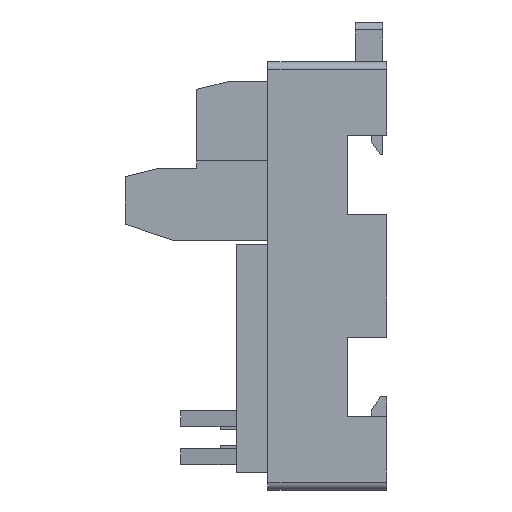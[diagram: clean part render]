
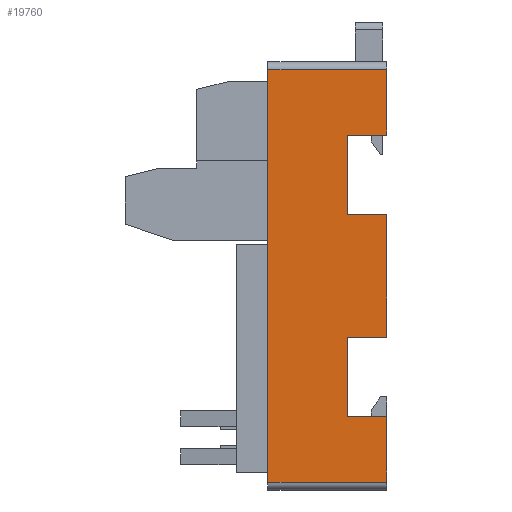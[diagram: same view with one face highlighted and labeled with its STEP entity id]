
A CAD part, left-side view. The second image highlights one B-rep face of the part: STEP entity #19760.
In plain terms, the highlighted planar face has unit normal (-1, 0, 0).
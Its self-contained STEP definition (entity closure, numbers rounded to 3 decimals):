
#358 = CARTESIAN_POINT ( 'NONE',  ( 0., 15., -53. ) ) ;
#375 = CARTESIAN_POINT ( 'NONE',  ( 0., 0., 0. ) ) ;
#511 = DIRECTION ( 'NONE',  ( 0., 0., 1. ) ) ;
#542 = CARTESIAN_POINT ( 'NONE',  ( 0., 5., -9.25 ) ) ;
#618 = DIRECTION ( 'NONE',  ( 0., 0., 1. ) ) ;
#653 = LINE ( 'NONE', #24501, #11923 ) ;
#1224 = CARTESIAN_POINT ( 'NONE',  ( 0., 15., -1. ) ) ;
#1269 = ORIENTED_EDGE ( 'NONE', *, *, #21208, .T. ) ;
#1467 = CARTESIAN_POINT ( 'NONE',  ( 0., 0., -1. ) ) ;
#1964 = DIRECTION ( 'NONE',  ( 0., -1., 0. ) ) ;
#2171 = CARTESIAN_POINT ( 'NONE',  ( 0., 5., -34.75 ) ) ;
#3084 = VECTOR ( 'NONE', #25063, 1000. ) ;
#3305 = CARTESIAN_POINT ( 'NONE',  ( 0., 15., 0. ) ) ;
#3437 = VERTEX_POINT ( 'NONE', #1467 ) ;
#3558 = EDGE_CURVE ( 'NONE', #6025, #10180, #10409, .T. ) ;
#3856 = DIRECTION ( 'NONE',  ( 0., 0., 1. ) ) ;
#3953 = EDGE_CURVE ( 'NONE', #10452, #13836, #24318, .T. ) ;
#4053 = AXIS2_PLACEMENT_3D ( 'NONE', #20520, #24181, #10099 ) ;
#4247 = CARTESIAN_POINT ( 'NONE',  ( 0., 15., -9.25 ) ) ;
#4928 = CARTESIAN_POINT ( 'NONE',  ( 0., 0., -53. ) ) ;
#5424 = LINE ( 'NONE', #21328, #14838 ) ;
#5426 = ORIENTED_EDGE ( 'NONE', *, *, #22447, .T. ) ;
#5721 = DIRECTION ( 'NONE',  ( 0., 0., 1. ) ) ;
#5921 = CARTESIAN_POINT ( 'NONE',  ( 0., 0., -19.25 ) ) ;
#6025 = VERTEX_POINT ( 'NONE', #15164 ) ;
#6205 = DIRECTION ( 'NONE',  ( 0., -1., 0. ) ) ;
#6940 = ORIENTED_EDGE ( 'NONE', *, *, #18050, .T. ) ;
#7342 = ORIENTED_EDGE ( 'NONE', *, *, #3558, .T. ) ;
#8150 = FACE_OUTER_BOUND ( 'NONE', #16735, .T. ) ;
#8214 = DIRECTION ( 'NONE',  ( 0., 0., 1. ) ) ;
#8773 = VERTEX_POINT ( 'NONE', #1224 ) ;
#9212 = VECTOR ( 'NONE', #1964, 1000. ) ;
#9326 = DIRECTION ( 'NONE',  ( 0., 1., 0. ) ) ;
#9736 = VERTEX_POINT ( 'NONE', #14304 ) ;
#9799 = ORIENTED_EDGE ( 'NONE', *, *, #24547, .F. ) ;
#9882 = VERTEX_POINT ( 'NONE', #4928 ) ;
#10065 = EDGE_CURVE ( 'NONE', #20310, #10452, #5424, .T. ) ;
#10099 = DIRECTION ( 'NONE',  ( 0., 0., -1. ) ) ;
#10109 = VERTEX_POINT ( 'NONE', #358 ) ;
#10140 = CARTESIAN_POINT ( 'NONE',  ( 0., 5., 0. ) ) ;
#10150 = LINE ( 'NONE', #21891, #9212 ) ;
#10180 = VERTEX_POINT ( 'NONE', #2171 ) ;
#10241 = EDGE_CURVE ( 'NONE', #3437, #8773, #25431, .T. ) ;
#10409 = LINE ( 'NONE', #10140, #11910 ) ;
#10452 = VERTEX_POINT ( 'NONE', #542 ) ;
#10583 = CARTESIAN_POINT ( 'NONE',  ( 0., 5., -19.25 ) ) ;
#11218 = LINE ( 'NONE', #15507, #18341 ) ;
#11278 = CARTESIAN_POINT ( 'NONE',  ( 0., 0., -44.75 ) ) ;
#11447 = CARTESIAN_POINT ( 'NONE',  ( 0., 0., 0. ) ) ;
#11786 = CARTESIAN_POINT ( 'NONE',  ( 0., 15., -53. ) ) ;
#11874 = VECTOR ( 'NONE', #618, 1000. ) ;
#11910 = VECTOR ( 'NONE', #511, 1000. ) ;
#11923 = VECTOR ( 'NONE', #8214, 1000. ) ;
#13061 = CARTESIAN_POINT ( 'NONE',  ( 0., 15., -1. ) ) ;
#13094 = VECTOR ( 'NONE', #6205, 1000. ) ;
#13487 = LINE ( 'NONE', #23279, #23141 ) ;
#13668 = LINE ( 'NONE', #11447, #25200 ) ;
#13836 = VERTEX_POINT ( 'NONE', #21751 ) ;
#14047 = LINE ( 'NONE', #375, #11874 ) ;
#14304 = CARTESIAN_POINT ( 'NONE',  ( 0., 0., -34.75 ) ) ;
#14508 = VECTOR ( 'NONE', #21314, 1000. ) ;
#14756 = EDGE_CURVE ( 'NONE', #25377, #20310, #11218, .T. ) ;
#14838 = VECTOR ( 'NONE', #3856, 1000. ) ;
#14917 = EDGE_CURVE ( 'NONE', #10180, #9736, #10150, .T. ) ;
#15026 = LINE ( 'NONE', #3305, #3084 ) ;
#15164 = CARTESIAN_POINT ( 'NONE',  ( 0., 5., -44.75 ) ) ;
#15507 = CARTESIAN_POINT ( 'NONE',  ( 0., 15., -19.25 ) ) ;
#15512 = VERTEX_POINT ( 'NONE', #11278 ) ;
#15912 = ORIENTED_EDGE ( 'NONE', *, *, #3953, .T. ) ;
#15963 = PLANE ( 'NONE',  #4053 ) ;
#16372 = ORIENTED_EDGE ( 'NONE', *, *, #17749, .T. ) ;
#16735 = EDGE_LOOP ( 'NONE', ( #25350, #15912, #5426, #21214, #9799, #1269, #6940, #20444, #7342, #19850, #16372, #19785 ) ) ;
#17749 = EDGE_CURVE ( 'NONE', #9736, #25377, #653, .T. ) ;
#18050 = EDGE_CURVE ( 'NONE', #9882, #15512, #14047, .T. ) ;
#18341 = VECTOR ( 'NONE', #19553, 1000. ) ;
#18347 = EDGE_CURVE ( 'NONE', #15512, #6025, #13487, .T. ) ;
#19553 = DIRECTION ( 'NONE',  ( 0., 1., 0. ) ) ;
#19760 = ADVANCED_FACE ( 'NONE', ( #8150 ), #15963, .F. ) ;
#19785 = ORIENTED_EDGE ( 'NONE', *, *, #14756, .T. ) ;
#19850 = ORIENTED_EDGE ( 'NONE', *, *, #14917, .T. ) ;
#20310 = VERTEX_POINT ( 'NONE', #10583 ) ;
#20444 = ORIENTED_EDGE ( 'NONE', *, *, #18347, .T. ) ;
#20520 = CARTESIAN_POINT ( 'NONE',  ( 0., 15., 0. ) ) ;
#21089 = VECTOR ( 'NONE', #23358, 1000. ) ;
#21208 = EDGE_CURVE ( 'NONE', #10109, #9882, #21820, .T. ) ;
#21214 = ORIENTED_EDGE ( 'NONE', *, *, #10241, .T. ) ;
#21314 = DIRECTION ( 'NONE',  ( 0., -1., 0. ) ) ;
#21328 = CARTESIAN_POINT ( 'NONE',  ( 0., 5., 0. ) ) ;
#21751 = CARTESIAN_POINT ( 'NONE',  ( 0., 0., -9.25 ) ) ;
#21820 = LINE ( 'NONE', #11786, #14508 ) ;
#21891 = CARTESIAN_POINT ( 'NONE',  ( 0., 15., -34.75 ) ) ;
#22447 = EDGE_CURVE ( 'NONE', #13836, #3437, #13668, .T. ) ;
#23141 = VECTOR ( 'NONE', #9326, 1000. ) ;
#23279 = CARTESIAN_POINT ( 'NONE',  ( 0., 15., -44.75 ) ) ;
#23358 = DIRECTION ( 'NONE',  ( 0., 1., 0. ) ) ;
#24181 = DIRECTION ( 'NONE',  ( 1., 0., 0. ) ) ;
#24318 = LINE ( 'NONE', #4247, #13094 ) ;
#24501 = CARTESIAN_POINT ( 'NONE',  ( 0., 0., 0. ) ) ;
#24547 = EDGE_CURVE ( 'NONE', #10109, #8773, #15026, .T. ) ;
#25063 = DIRECTION ( 'NONE',  ( 0., 0., 1. ) ) ;
#25200 = VECTOR ( 'NONE', #5721, 1000. ) ;
#25350 = ORIENTED_EDGE ( 'NONE', *, *, #10065, .T. ) ;
#25377 = VERTEX_POINT ( 'NONE', #5921 ) ;
#25431 = LINE ( 'NONE', #13061, #21089 ) ;
